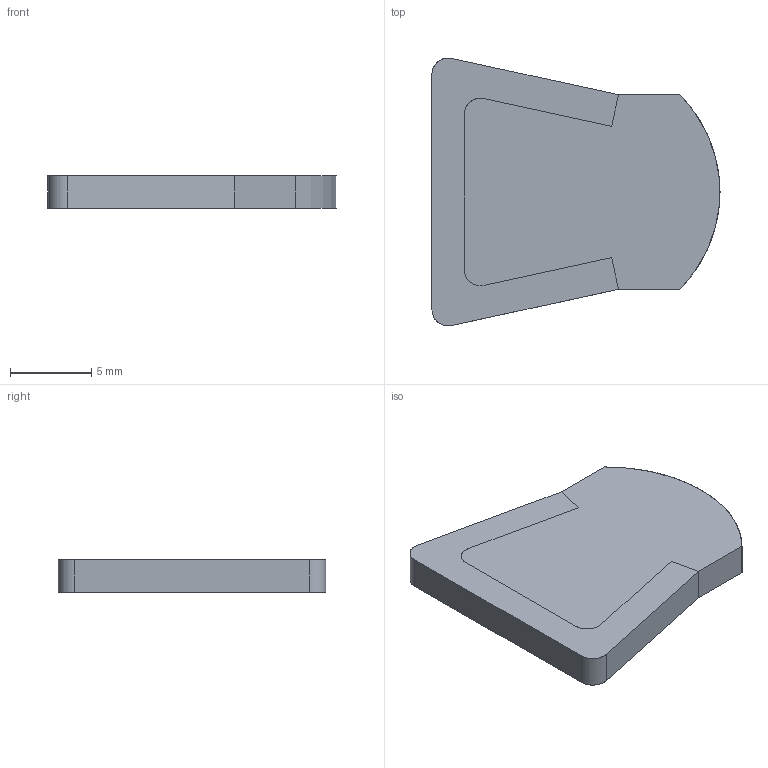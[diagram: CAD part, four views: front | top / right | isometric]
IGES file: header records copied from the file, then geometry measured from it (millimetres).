
Start section: SolidWorks IGES file using analytic representation for surfaces
Global section: file name: C:\Documents and Settings\URETIM3\Desktop\yeni katalog tolgay düzenli\E kataloðu\U 650 PROFÝL ALPOLEN 1000\MONTAJ RESÝMLERÝ\206 KSC 001mntj.IGS; native system: SolidWorks 2006 by SolidWorks Corporation; preprocessor: SolidWorks 2006 by SolidWorks Corporation; author: URETIM3; date: 060912.155051; units: millimetre
Bounding box: 17.76 x 16.52 x 2 mm (x, y, z)
Surface area: 614.3 mm2 (no closed solid volume)
Topology: 0 solids, 0 shells, 17 faces, 194 edges, 194 vertices
Faces by surface type: bspline 10, revolution 7
